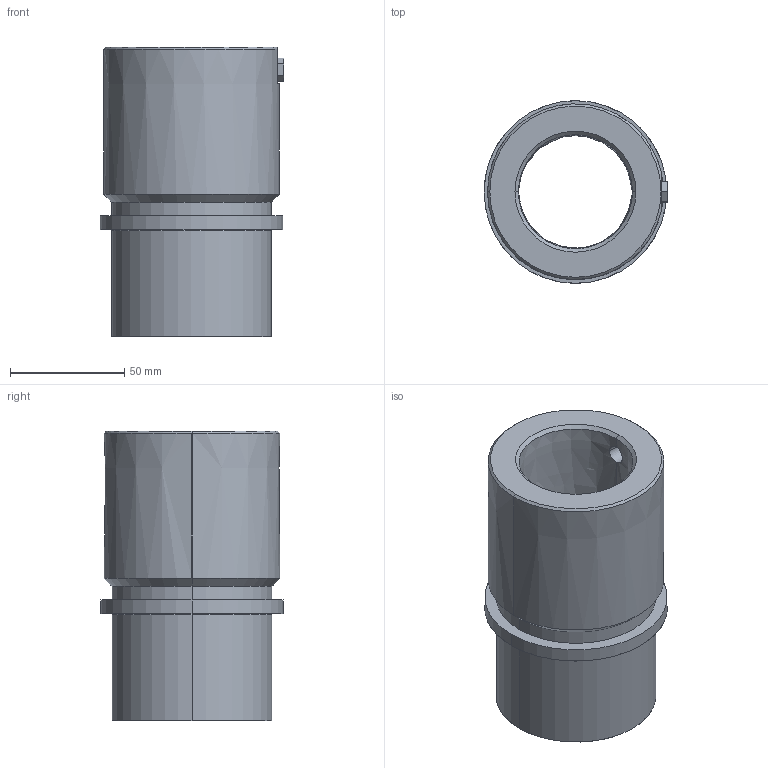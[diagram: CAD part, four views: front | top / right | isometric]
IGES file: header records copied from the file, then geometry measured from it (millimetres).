
Start section: START RECORD GO HERE.
Global section: file name: 742-50.igs; native system: DASSAULT SYSTEMES CATIA V5 R20 - www.3ds.com; preprocessor: CATIA Version 5 Release 20 ; author: Utente; organization: NB04-ASUS; date: 20210123.114111; units: millimetre
Bounding box: 80.5 x 80 x 127 mm (x, y, z)
Surface area: 57028.2 mm2 (no closed solid volume)
Topology: 0 solids, 0 shells, 38 faces, 178 edges, 178 vertices
Faces by surface type: revolution 24, plane 14
